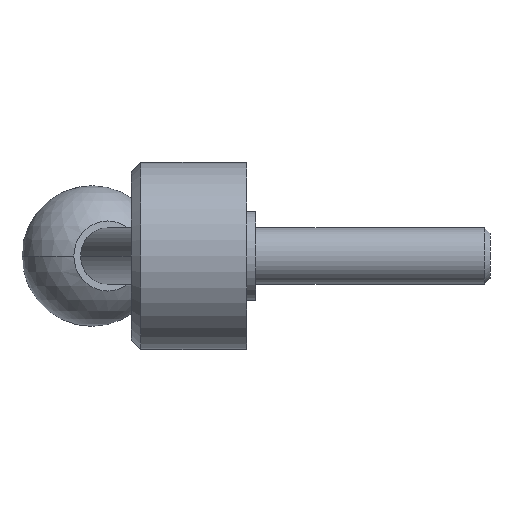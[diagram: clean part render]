
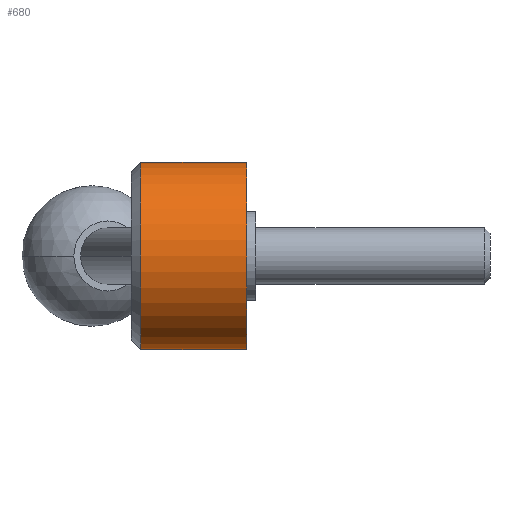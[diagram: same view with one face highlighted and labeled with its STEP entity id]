
A CAD part, left-side view. The second image highlights one B-rep face of the part: STEP entity #680.
In plain terms, the highlighted cylindrical face has radius 20 mm (diameter 40 mm), a partial arc.
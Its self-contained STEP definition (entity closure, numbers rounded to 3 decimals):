
#12 = ORIENTED_EDGE ( 'NONE', *, *, #203, .T. ) ;
#62 = LINE ( 'NONE', #805, #480 ) ;
#107 = AXIS2_PLACEMENT_3D ( 'NONE', #767, #565, #270 ) ;
#110 = ORIENTED_EDGE ( 'NONE', *, *, #547, .F. ) ;
#137 = CARTESIAN_POINT ( 'NONE',  ( 0., 22.6, 20. ) ) ;
#178 = CYLINDRICAL_SURFACE ( 'NONE', #784, 20. ) ;
#185 = EDGE_LOOP ( 'NONE', ( #402, #12, #435, #110 ) ) ;
#203 = EDGE_CURVE ( 'NONE', #255, #852, #823, .T. ) ;
#230 = CARTESIAN_POINT ( 'NONE',  ( 0., 0., 0. ) ) ;
#255 = VERTEX_POINT ( 'NONE', #137 ) ;
#270 = DIRECTION ( 'NONE',  ( 0., 0., 1. ) ) ;
#297 = LINE ( 'NONE', #774, #396 ) ;
#330 = EDGE_CURVE ( 'NONE', #255, #655, #297, .T. ) ;
#377 = AXIS2_PLACEMENT_3D ( 'NONE', #230, #434, #706 ) ;
#396 = VECTOR ( 'NONE', #712, 1000. ) ;
#402 = ORIENTED_EDGE ( 'NONE', *, *, #330, .F. ) ;
#434 = DIRECTION ( 'NONE',  ( 0., -1., 0. ) ) ;
#435 = ORIENTED_EDGE ( 'NONE', *, *, #821, .T. ) ;
#443 = FACE_OUTER_BOUND ( 'NONE', #185, .T. ) ;
#451 = DIRECTION ( 'NONE',  ( 0., -1., 0. ) ) ;
#454 = CARTESIAN_POINT ( 'NONE',  ( 0., 0., -20. ) ) ;
#480 = VECTOR ( 'NONE', #595, 1000. ) ;
#533 = DIRECTION ( 'NONE',  ( 0., 0., -1. ) ) ;
#547 = EDGE_CURVE ( 'NONE', #655, #859, #812, .T. ) ;
#565 = DIRECTION ( 'NONE',  ( 0., -1., 0. ) ) ;
#588 = CARTESIAN_POINT ( 'NONE',  ( 0., 0., 20. ) ) ;
#595 = DIRECTION ( 'NONE',  ( 0., -1., 0. ) ) ;
#655 = VERTEX_POINT ( 'NONE', #588 ) ;
#680 = ADVANCED_FACE ( 'NONE', ( #443 ), #178, .T. ) ;
#706 = DIRECTION ( 'NONE',  ( 0., 0., -1. ) ) ;
#712 = DIRECTION ( 'NONE',  ( 0., -1., 0. ) ) ;
#721 = CARTESIAN_POINT ( 'NONE',  ( 0., 0., 0. ) ) ;
#767 = CARTESIAN_POINT ( 'NONE',  ( 0., 22.6, 0. ) ) ;
#774 = CARTESIAN_POINT ( 'NONE',  ( 0., 0., 20. ) ) ;
#784 = AXIS2_PLACEMENT_3D ( 'NONE', #721, #451, #533 ) ;
#788 = CARTESIAN_POINT ( 'NONE',  ( 0., 22.6, -20. ) ) ;
#805 = CARTESIAN_POINT ( 'NONE',  ( 0., 0., -20. ) ) ;
#812 = CIRCLE ( 'NONE', #377, 20. ) ;
#821 = EDGE_CURVE ( 'NONE', #852, #859, #62, .T. ) ;
#823 = CIRCLE ( 'NONE', #107, 20. ) ;
#852 = VERTEX_POINT ( 'NONE', #788 ) ;
#859 = VERTEX_POINT ( 'NONE', #454 ) ;
